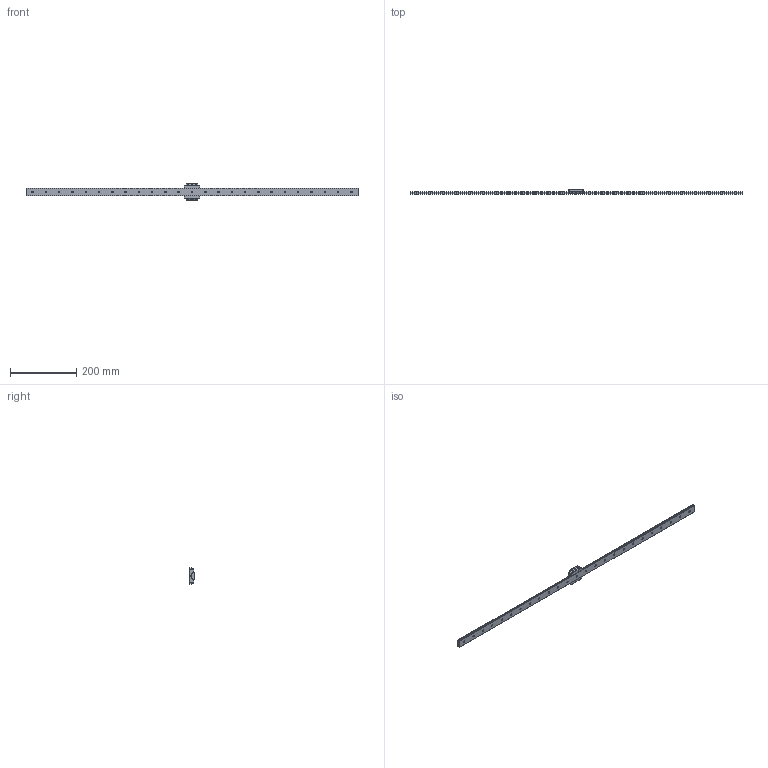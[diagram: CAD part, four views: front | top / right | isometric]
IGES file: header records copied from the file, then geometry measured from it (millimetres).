
Start section: Data from XPlus IGES,  Spatial Corp. Copyright (c) 1999-2004
Global section: file name: SHW14CAM1UU1000200477.25000.igs; native system:  By Spatial Corp.; preprocessor: XPlus ACIS/IGES 3.0; author: Noname; organization: Noname; date: 20161110.134319; units: millimetre
Bounding box: 1000 x 14 x 50 mm (x, y, z)
Surface area: 73658 mm2 (no closed solid volume)
Topology: 0 solids, 0 shells, 317 faces, 1696 edges, 1696 vertices
Faces by surface type: revolution 188, extrusion 129
